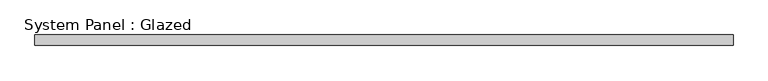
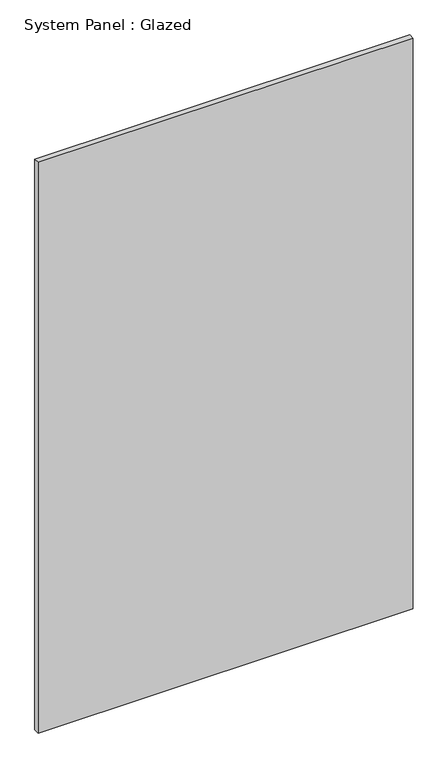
"""IFC4 building model written with IfcOpenShell, lengths in millimetres: plate geometry, System Panel : Glazed."""

from ifc_helpers import new_model, si_unit, origin, origin_with_axes, place, context, project, spatial, polyline, outline, extrude, source, transform, mapped, element, save


def system_panel_glazed_5206559f(model_context):
    return source(origin(), model_context, "Body", "SweptSolid", [
        extrude(outline(polyline([(842.957653, 19.05), (-842.957653, 19.05), (-842.957653, 44.45), (842.957653, 44.45), (842.957653, 19.05)])), origin_with_axes(), (0.0, 0.0, 1.0), 2711.4294337),
    ])


if __name__ == "__main__":
    model = new_model("IFC4")
    model_context = context("Model", 3, world=origin())
    ifc_project = project(units=[si_unit("LENGTHUNIT", "METRE", prefix="MILLI")], contexts=[model_context])
    site = spatial("IfcSite", under=ifc_project)
    building = spatial("IfcBuilding", under=site)
    placement = place(None, origin())
    system_panel_glazed_shape = system_panel_glazed_5206559f(model_context)
    element("IfcPlate", 1, ObjectType="System Panel : Glazed", at=placement, inside=building, context=model_context, shape_type="MappedRepresentation", body=[
        mapped(system_panel_glazed_shape, transform((0.0, 0.0, 0.0), x_axis=(1.0, 0.0, 0.0), y_axis=(0.0, 1.0, 0.0), z_axis=(0.0, 0.0, 1.0))),
    ])
    save(model, "model.ifc")
